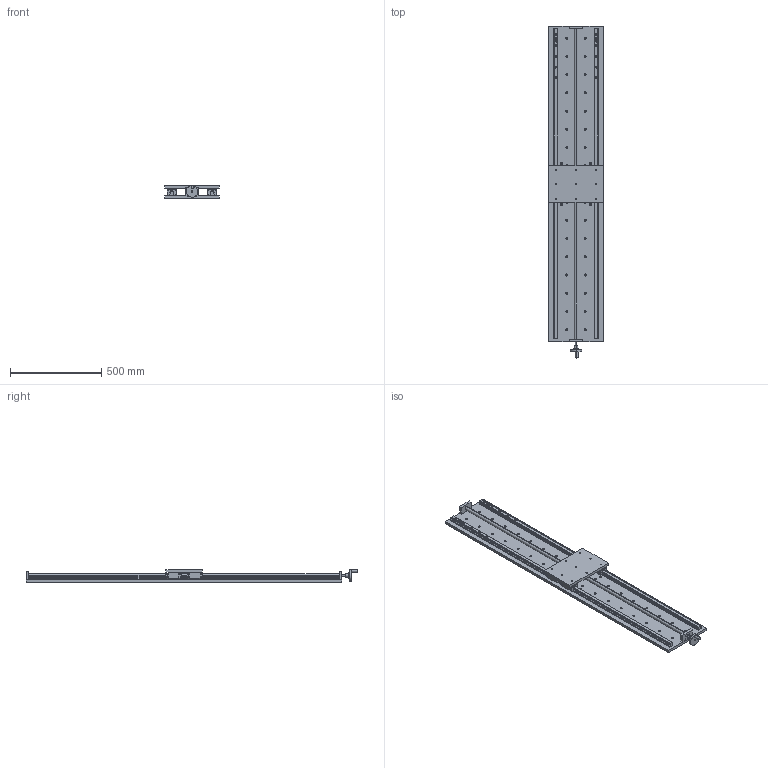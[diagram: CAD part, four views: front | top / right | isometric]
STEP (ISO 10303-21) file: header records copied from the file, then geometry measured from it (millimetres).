
FILE_DESCRIPTION (( 'STEP AP214' ), '1' );
FILE_NAME ('PT300-1500.STEP', '2022-09-18T06:34:13', ( '' ), ( '' ), 'SwSTEP 2.0', 'SolidWorks 2017', '' );
FILE_SCHEMA (( 'AUTOMOTIVE_DESIGN' ));
Length unit declared in the file: millimetre
Products named in the file (12): HGH25CA2R300Z0C_GW202204023669; M6H; 醱啣; PT300-1500; 標踡輸; HGR25_temp-1500; HGH25C__X2_5DE65C01_X0__temp; 菁啣-1500; HGH25C__X2_53F35C01_X0__temp; 標踡; 忒謫; 34320001
Assembly tree (12 placements, depth 3):
  PT300-1500
    菁啣-1500
    醱啣
    HGH25CA2R300Z0C_GW202204023669  x2
      HGR25_temp-1500
      HGH25C__X2_53F35C01_X0__temp
      M6H
      HGH25C__X2_5DE65C01_X0__temp
      34320001
    標踡
      標踡輸
      忒謫
Bounding box: 300 x 1822.1 x 70.06 mm (x, y, z)
Volume: 11225874.1 mm3; surface area: 1829937 mm2
Topology: 31 solids, 33 shells, 2956 faces, 8257 edges, 5448 vertices
Faces by surface type: plane 1904, cylinder 862, bspline 126, cone 56, torus 8
Entity records: 68138 total; most frequent: CARTESIAN_POINT 10646, ORIENTED_EDGE 8854, DIRECTION 8497, EDGE_CURVE 4427, VECTOR 3137, LINE 3137, VERTEX_POINT 2937, AXIS2_PLACEMENT_3D 2680
